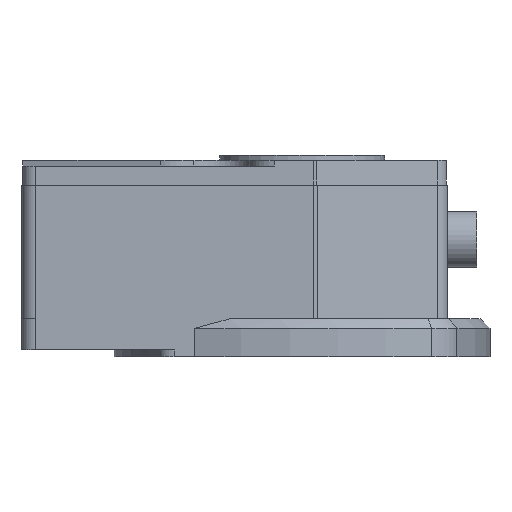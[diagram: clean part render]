
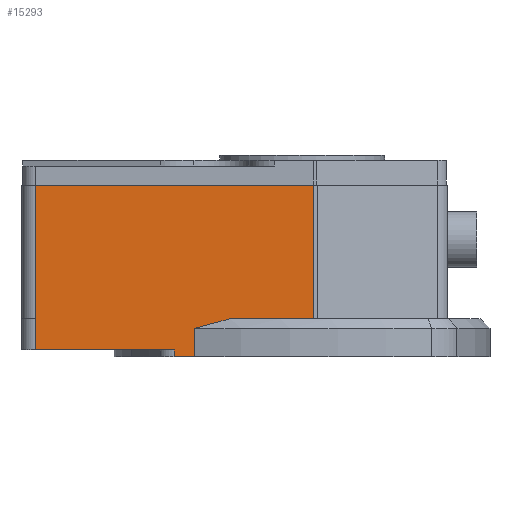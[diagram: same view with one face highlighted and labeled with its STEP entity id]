
A CAD part, left-side view. The second image highlights one B-rep face of the part: STEP entity #15293.
In plain terms, the highlighted planar face has unit normal (-1, 0, 0).
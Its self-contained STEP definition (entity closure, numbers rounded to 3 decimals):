
#381 = LINE ( 'NONE', #9596, #10108 ) ;
#697 = CARTESIAN_POINT ( 'NONE',  ( -53.514, 80.998, 2. ) ) ;
#714 = DIRECTION ( 'NONE',  ( 0., -1., 0. ) ) ;
#820 = VERTEX_POINT ( 'NONE', #10726 ) ;
#850 = DIRECTION ( 'NONE',  ( 0., 0., -1. ) ) ;
#936 = ORIENTED_EDGE ( 'NONE', *, *, #16364, .T. ) ;
#980 = DIRECTION ( 'NONE',  ( 0., -1., 0. ) ) ;
#1035 = ORIENTED_EDGE ( 'NONE', *, *, #10078, .T. ) ;
#1108 = VECTOR ( 'NONE', #980, 1000. ) ;
#1194 = LINE ( 'NONE', #14284, #11327 ) ;
#1365 = ORIENTED_EDGE ( 'NONE', *, *, #3705, .T. ) ;
#1558 = VECTOR ( 'NONE', #850, 1000. ) ;
#1603 = CARTESIAN_POINT ( 'NONE',  ( -53.514, 80.998, 52. ) ) ;
#1720 = CARTESIAN_POINT ( 'NONE',  ( -53.514, 38.733, 0. ) ) ;
#1769 = ORIENTED_EDGE ( 'NONE', *, *, #10082, .T. ) ;
#1938 = CARTESIAN_POINT ( 'NONE',  ( -53.514, 32.664, 11.5 ) ) ;
#1976 = DIRECTION ( 'NONE',  ( 0., -1., 0. ) ) ;
#2480 = AXIS2_PLACEMENT_3D ( 'NONE', #9225, #13119, #5465 ) ;
#2511 = ORIENTED_EDGE ( 'NONE', *, *, #8886, .T. ) ;
#2643 = ORIENTED_EDGE ( 'NONE', *, *, #4738, .T. ) ;
#3039 = LINE ( 'NONE', #5793, #6426 ) ;
#3122 = LINE ( 'NONE', #7020, #6514 ) ;
#3697 = DIRECTION ( 'NONE',  ( 0., 0., -1. ) ) ;
#3705 = EDGE_CURVE ( 'NONE', #12026, #12176, #381, .T. ) ;
#3715 = CARTESIAN_POINT ( 'NONE',  ( -53.514, 32.664, 8.5 ) ) ;
#4066 = DIRECTION ( 'NONE',  ( 0., 0., -1. ) ) ;
#4487 = LINE ( 'NONE', #8575, #1108 ) ;
#4508 = DIRECTION ( 'NONE',  ( 0., -1., 0. ) ) ;
#4618 = CARTESIAN_POINT ( 'NONE',  ( -53.514, 38.733, 2. ) ) ;
#4647 = ORIENTED_EDGE ( 'NONE', *, *, #7797, .F. ) ;
#4738 = EDGE_CURVE ( 'NONE', #7369, #7869, #11699, .T. ) ;
#5411 = VERTEX_POINT ( 'NONE', #4618 ) ;
#5465 = DIRECTION ( 'NONE',  ( 0., 1., 0. ) ) ;
#5793 = CARTESIAN_POINT ( 'NONE',  ( -53.514, 80.998, 52. ) ) ;
#5954 = CARTESIAN_POINT ( 'NONE',  ( -53.514, 29.095, 9.666 ) ) ;
#6426 = VECTOR ( 'NONE', #4508, 1000. ) ;
#6510 = EDGE_CURVE ( 'NONE', #8069, #10153, #4487, .T. ) ;
#6514 = VECTOR ( 'NONE', #14680, 1000. ) ;
#7020 = CARTESIAN_POINT ( 'NONE',  ( -53.514, 38.733, 2. ) ) ;
#7369 = VERTEX_POINT ( 'NONE', #1603 ) ;
#7797 = EDGE_CURVE ( 'NONE', #820, #10153, #8194, .T. ) ;
#7831 = EDGE_LOOP ( 'NONE', ( #1035, #1365, #9592, #936, #10442, #4647, #9414, #2643, #2511, #1769 ) ) ;
#7869 = VERTEX_POINT ( 'NONE', #9489 ) ;
#7871 = CARTESIAN_POINT ( 'NONE',  ( -53.514, 80.998, 2. ) ) ;
#8069 = VERTEX_POINT ( 'NONE', #8655 ) ;
#8194 = LINE ( 'NONE', #10028, #14608 ) ;
#8363 = CARTESIAN_POINT ( 'NONE',  ( -53.514, 32.664, 0. ) ) ;
#8489 = CARTESIAN_POINT ( 'NONE',  ( -53.514, 21.82, 11.5 ) ) ;
#8575 = CARTESIAN_POINT ( 'NONE',  ( -53.514, 80.998, 11.5 ) ) ;
#8653 = LINE ( 'NONE', #1938, #12453 ) ;
#8655 = CARTESIAN_POINT ( 'NONE',  ( -53.514, 21.82, 11.5 ) ) ;
#8886 = EDGE_CURVE ( 'NONE', #7869, #9965, #1194, .T. ) ;
#9225 = CARTESIAN_POINT ( 'NONE',  ( -53.514, 80.998, 11.5 ) ) ;
#9321 = VERTEX_POINT ( 'NONE', #3715 ) ;
#9414 = ORIENTED_EDGE ( 'NONE', *, *, #16294, .F. ) ;
#9488 = VECTOR ( 'NONE', #1976, 1000. ) ;
#9489 = CARTESIAN_POINT ( 'NONE',  ( -53.514, 80.998, 11.5 ) ) ;
#9537 = DIRECTION ( 'NONE',  ( 0., 0., -1. ) ) ;
#9592 = ORIENTED_EDGE ( 'NONE', *, *, #12137, .F. ) ;
#9596 = CARTESIAN_POINT ( 'NONE',  ( -53.514, 80.998, 0. ) ) ;
#9711 = CARTESIAN_POINT ( 'NONE',  ( -53.514, 32.664, 8.5 ) ) ;
#9965 = VERTEX_POINT ( 'NONE', #7871 ) ;
#10028 = CARTESIAN_POINT ( 'NONE',  ( -53.514, -3.476, 59.5 ) ) ;
#10078 = EDGE_CURVE ( 'NONE', #5411, #12026, #3122, .T. ) ;
#10082 = EDGE_CURVE ( 'NONE', #9965, #5411, #13330, .T. ) ;
#10108 = VECTOR ( 'NONE', #714, 1000. ) ;
#10153 = VERTEX_POINT ( 'NONE', #16158 ) ;
#10442 = ORIENTED_EDGE ( 'NONE', *, *, #6510, .T. ) ;
#10726 = CARTESIAN_POINT ( 'NONE',  ( -53.514, -3.476, 52. ) ) ;
#11004 = CARTESIAN_POINT ( 'NONE',  ( -53.514, 80.998, 59.5 ) ) ;
#11327 = VECTOR ( 'NONE', #4066, 1000. ) ;
#11699 = LINE ( 'NONE', #11004, #1558 ) ;
#11829 = FACE_OUTER_BOUND ( 'NONE', #7831, .T. ) ;
#12026 = VERTEX_POINT ( 'NONE', #1720 ) ;
#12137 = EDGE_CURVE ( 'NONE', #9321, #12176, #8653, .T. ) ;
#12176 = VERTEX_POINT ( 'NONE', #8363 ) ;
#12453 = VECTOR ( 'NONE', #9537, 1000. ) ;
#12881 = B_SPLINE_CURVE_WITH_KNOTS ( 'NONE', 3,
 ( #9711, #5954, #16181, #8489 ),
 .UNSPECIFIED., .F., .F.,
 ( 4, 4 ),
 ( 0., 0.011 ),
 .UNSPECIFIED. ) ;
#13119 = DIRECTION ( 'NONE',  ( 1., 0., 0. ) ) ;
#13330 = LINE ( 'NONE', #697, #9488 ) ;
#14284 = CARTESIAN_POINT ( 'NONE',  ( -53.514, 80.998, 11.5 ) ) ;
#14327 = PLANE ( 'NONE',  #2480 ) ;
#14608 = VECTOR ( 'NONE', #3697, 1000. ) ;
#14680 = DIRECTION ( 'NONE',  ( 0., 0., -1. ) ) ;
#15293 = ADVANCED_FACE ( 'NONE', ( #11829 ), #14327, .F. ) ;
#16158 = CARTESIAN_POINT ( 'NONE',  ( -53.514, -3.476, 11.5 ) ) ;
#16181 = CARTESIAN_POINT ( 'NONE',  ( -53.514, 25.483, 10.675 ) ) ;
#16294 = EDGE_CURVE ( 'NONE', #7369, #820, #3039, .T. ) ;
#16364 = EDGE_CURVE ( 'NONE', #9321, #8069, #12881, .T. ) ;
